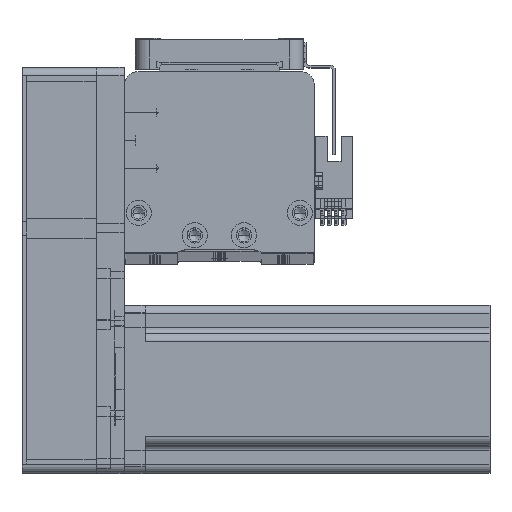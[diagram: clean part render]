
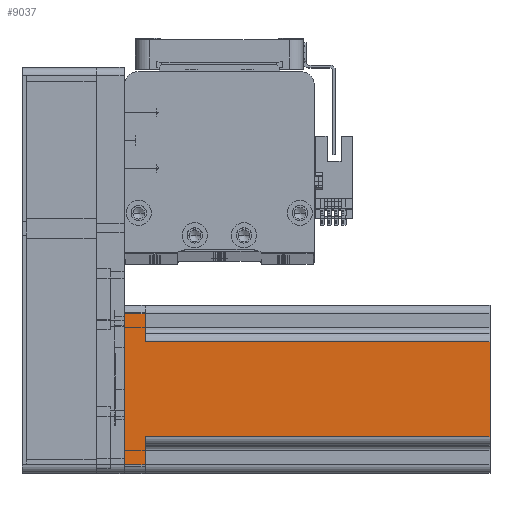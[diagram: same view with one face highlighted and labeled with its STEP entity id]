
A CAD part, top view. The second image highlights one B-rep face of the part: STEP entity #9037.
In plain terms, the highlighted planar face has unit normal (0, 0, 1) as drawn and (0, -1, 0) by its records, which use the part's own axes.
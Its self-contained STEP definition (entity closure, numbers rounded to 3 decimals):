
#51 = DIRECTION ( 'NONE',  ( -1., 0., 0. ) ) ;
#1256 = EDGE_CURVE ( 'NONE', #22337, #7514, #29861, .T. ) ;
#1435 = DIRECTION ( 'NONE',  ( 1., 0., 0. ) ) ;
#1543 = LINE ( 'NONE', #31199, #22266 ) ;
#1671 = DIRECTION ( 'NONE',  ( 0., 0., -1. ) ) ;
#2673 = CARTESIAN_POINT ( 'NONE',  ( 27., -30., 7.5 ) ) ;
#3496 = CARTESIAN_POINT ( 'NONE',  ( 27., -30., 130.7 ) ) ;
#4999 = EDGE_CURVE ( 'NONE', #22337, #55375, #10593, .T. ) ;
#5035 = CARTESIAN_POINT ( 'NONE',  ( 30., -30., 130.7 ) ) ;
#5073 = ORIENTED_EDGE ( 'NONE', *, *, #8981, .T. ) ;
#5891 = CARTESIAN_POINT ( 'NONE',  ( 27., -30., 0. ) ) ;
#6532 = CARTESIAN_POINT ( 'NONE',  ( 17., -30., 130.7 ) ) ;
#7191 = DIRECTION ( 'NONE',  ( 0., 0., -1. ) ) ;
#7514 = VERTEX_POINT ( 'NONE', #55780 ) ;
#7940 = DIRECTION ( 'NONE',  ( 0., 0., 1. ) ) ;
#8981 = EDGE_CURVE ( 'NONE', #13811, #51942, #44573, .T. ) ;
#9037 = ADVANCED_FACE ( 'NONE', ( #14054 ), #9262, .F. ) ;
#9262 = PLANE ( 'NONE',  #21268 ) ;
#9460 = DIRECTION ( 'NONE',  ( -1., 0., 0. ) ) ;
#10229 = ORIENTED_EDGE ( 'NONE', *, *, #40682, .T. ) ;
#10232 = VECTOR ( 'NONE', #1435, 1000. ) ;
#10593 = LINE ( 'NONE', #20258, #54856 ) ;
#10852 = EDGE_CURVE ( 'NONE', #23228, #52487, #33835, .T. ) ;
#13811 = VERTEX_POINT ( 'NONE', #2673 ) ;
#14054 = FACE_OUTER_BOUND ( 'NONE', #22637, .T. ) ;
#15851 = DIRECTION ( 'NONE',  ( 0., 0., 1. ) ) ;
#18254 = EDGE_CURVE ( 'NONE', #49993, #23228, #32487, .T. ) ;
#18555 = LINE ( 'NONE', #24769, #52462 ) ;
#19086 = ORIENTED_EDGE ( 'NONE', *, *, #4999, .F. ) ;
#19632 = VECTOR ( 'NONE', #51, 1000. ) ;
#20258 = CARTESIAN_POINT ( 'NONE',  ( 30., -30., 130.7 ) ) ;
#20717 = VECTOR ( 'NONE', #1671, 1000. ) ;
#21268 = AXIS2_PLACEMENT_3D ( 'NONE', #5035, #35979, #9460 ) ;
#22225 = CARTESIAN_POINT ( 'NONE',  ( 20., -30., 7.5 ) ) ;
#22266 = VECTOR ( 'NONE', #35651, 1000. ) ;
#22337 = VERTEX_POINT ( 'NONE', #28774 ) ;
#22637 = EDGE_LOOP ( 'NONE', ( #19086, #54341, #28597, #54180, #29286, #10229, #5073, #34835 ) ) ;
#23228 = VERTEX_POINT ( 'NONE', #52661 ) ;
#24769 = CARTESIAN_POINT ( 'NONE',  ( 17., -30., 130.7 ) ) ;
#27895 = CARTESIAN_POINT ( 'NONE',  ( 30., -30., 0. ) ) ;
#28597 = ORIENTED_EDGE ( 'NONE', *, *, #51140, .F. ) ;
#28774 = CARTESIAN_POINT ( 'NONE',  ( -17., -30., 130.7 ) ) ;
#29286 = ORIENTED_EDGE ( 'NONE', *, *, #10852, .T. ) ;
#29631 = EDGE_CURVE ( 'NONE', #51942, #55375, #18555, .T. ) ;
#29861 = LINE ( 'NONE', #33685, #53359 ) ;
#31199 = CARTESIAN_POINT ( 'NONE',  ( -20., -30., 7.5 ) ) ;
#32487 = LINE ( 'NONE', #45743, #20717 ) ;
#33685 = CARTESIAN_POINT ( 'NONE',  ( -17., -30., 130.7 ) ) ;
#33835 = LINE ( 'NONE', #27895, #10232 ) ;
#34835 = ORIENTED_EDGE ( 'NONE', *, *, #29631, .T. ) ;
#35651 = DIRECTION ( 'NONE',  ( 1., 0., 0. ) ) ;
#35979 = DIRECTION ( 'NONE',  ( 0., 1., 0. ) ) ;
#40682 = EDGE_CURVE ( 'NONE', #52487, #13811, #45493, .T. ) ;
#42783 = VECTOR ( 'NONE', #7940, 1000. ) ;
#44573 = LINE ( 'NONE', #22225, #19632 ) ;
#45493 = LINE ( 'NONE', #3496, #42783 ) ;
#45743 = CARTESIAN_POINT ( 'NONE',  ( -27., -30., 130.7 ) ) ;
#46748 = DIRECTION ( 'NONE',  ( 1., 0., 0. ) ) ;
#47558 = CARTESIAN_POINT ( 'NONE',  ( -27., -30., 7.5 ) ) ;
#49993 = VERTEX_POINT ( 'NONE', #47558 ) ;
#50208 = CARTESIAN_POINT ( 'NONE',  ( 17., -30., 7.5 ) ) ;
#51140 = EDGE_CURVE ( 'NONE', #49993, #7514, #1543, .T. ) ;
#51942 = VERTEX_POINT ( 'NONE', #50208 ) ;
#52462 = VECTOR ( 'NONE', #15851, 1000. ) ;
#52487 = VERTEX_POINT ( 'NONE', #5891 ) ;
#52661 = CARTESIAN_POINT ( 'NONE',  ( -27., -30., 0. ) ) ;
#53359 = VECTOR ( 'NONE', #7191, 1000. ) ;
#54180 = ORIENTED_EDGE ( 'NONE', *, *, #18254, .T. ) ;
#54341 = ORIENTED_EDGE ( 'NONE', *, *, #1256, .T. ) ;
#54856 = VECTOR ( 'NONE', #46748, 1000. ) ;
#55375 = VERTEX_POINT ( 'NONE', #6532 ) ;
#55780 = CARTESIAN_POINT ( 'NONE',  ( -17., -30., 7.5 ) ) ;
